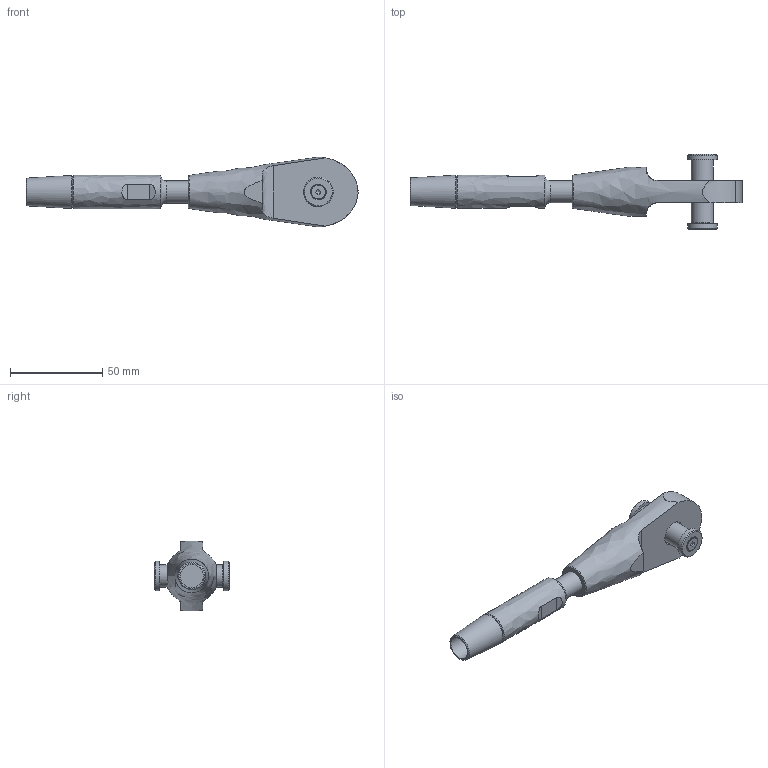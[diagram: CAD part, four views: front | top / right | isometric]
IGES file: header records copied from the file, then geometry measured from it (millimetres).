
Global section: file name: 520-012-OES-ADA; native system: Autodesk Inventor 2020; preprocessor: unknown; author: Administrator; date: 20201007.153207; units: millimetre
Bounding box: 179.99 x 40.78 x 37.82 mm (x, y, z)
Volume: 60849 mm3; surface area: 18159.7 mm2
Topology: 6 solids, 6 shells, 62 faces, 151 edges, 105 vertices
Faces by surface type: bspline 62
